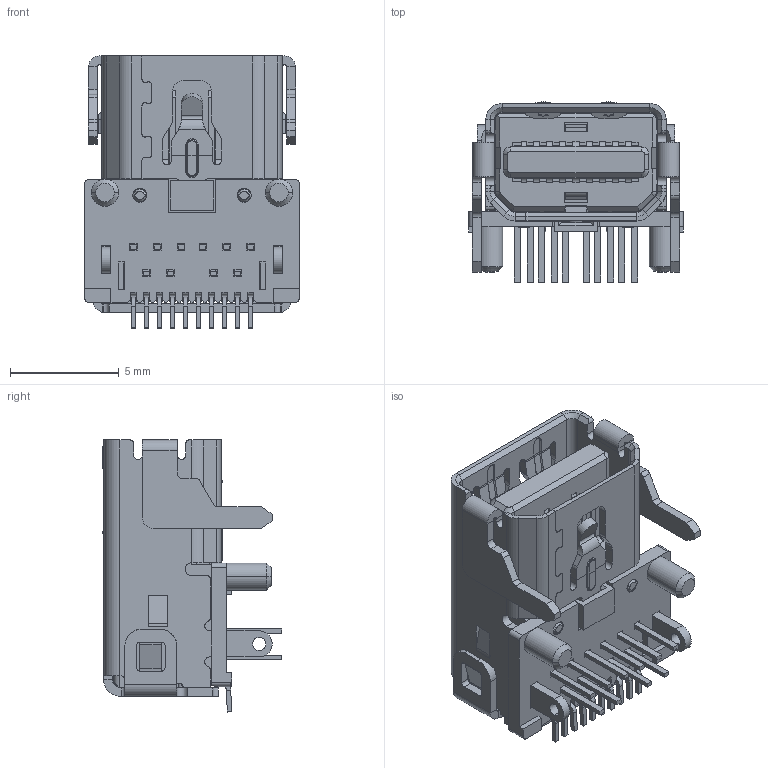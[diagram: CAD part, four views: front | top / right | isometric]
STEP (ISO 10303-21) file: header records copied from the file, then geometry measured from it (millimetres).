
FILE_DESCRIPTION((''),'2;1');
FILE_NAME('WMDR-20F8L1PH4','2012-05-12T',('liyfeng'),(''),'PRO/ENGINEER BY PARAMETRIC TECHNOLOGY CORPORATION, 2008230','PRO/ENGINEER BY PARAMETRIC TECHNOLOGY CORPORATION, 2008230','');
FILE_SCHEMA(('CONFIG_CONTROL_DESIGN'));
Products named in the file (1): WMDR-20F8L1PH4
Bounding box: 9.85 x 8.28 x 12.51 mm (x, y, z)
Volume: 335.6 mm3; surface area: 1564.6 mm2
Topology: 1 solids, 1 shells, 2387 faces, 6750 edges, 4234 vertices
Faces by surface type: plane 1779, cylinder 498, cone 56, torus 28, extrusion 16, bspline 10
Entity records: 77737 total; most frequent: CARTESIAN_POINT 15701, ORIENTED_EDGE 13500, DIRECTION 12168, EDGE_CURVE 6750, VECTOR 5512, LINE 5496, VERTEX_POINT 4234, AXIS2_PLACEMENT_3D 3328
